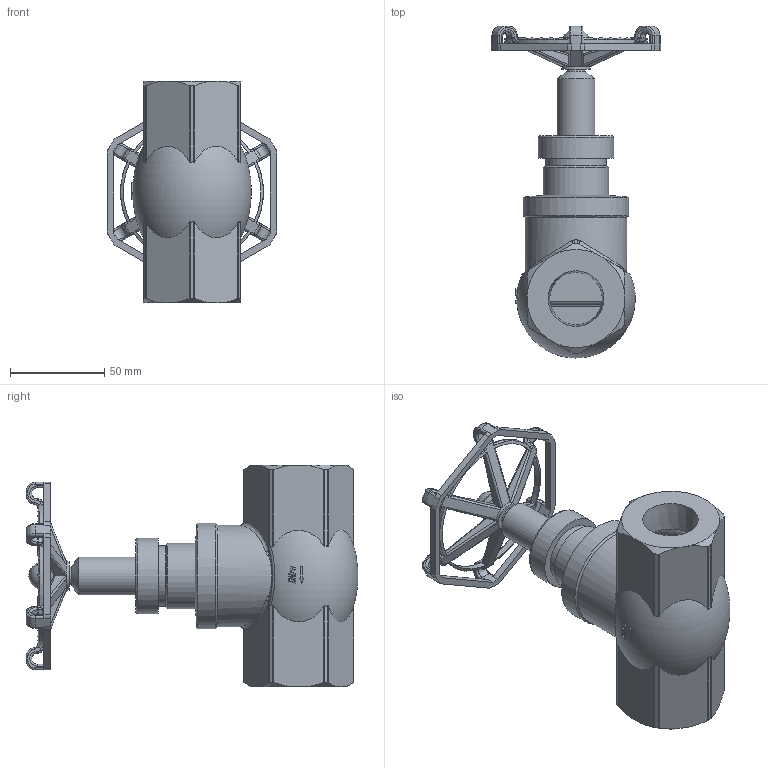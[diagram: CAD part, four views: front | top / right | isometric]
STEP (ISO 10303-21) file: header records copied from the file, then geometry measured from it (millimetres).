
FILE_DESCRIPTION(('STEP AP242'), '1');
FILE_NAME('VSO3131M-1W-T-S 孰囡囗 玎镱痦 DN.ru 捏50 畜16', '', ('UNSPECIFIED'), ('UNSPECIFIED'), 'C3D Converter', 'C3D Toolkit', '');
FILE_SCHEMA(('AP242_MANAGED_MODEL_BASED_3D_ENGINEERING_MIM_LF { 1 0 10303 442 1 1 4 }'));
Length unit declared in the file: millimetre
Products named in the file (1): VSO3131M-1W-T-S
Bounding box: 90.07 x 176.5 x 118 mm (x, y, z)
Volume: 8589.8 mm3; surface area: 83591.3 mm2
Topology: 1 solids, 2 shells, 550 faces, 1515 edges, 960 vertices
Faces by surface type: plane 169, cylinder 136, bspline 114, extrusion 57, torus 42, cone 29, revolution 2, sphere 1
Full cylindrical faces by diameter (mm): 10 x1, 14 x1, 15 x1, 20 x2, 24 x1, 27.871 x2, 28.728 x1, 32 x1, 32.137 x1, 35 x1, 37 x1, 40 x1, 54 x1, 56 x1
Entity records: 42565 total; most frequent: CARTESIAN_POINT 26815, ORIENTED_EDGE 2942, DIRECTION 2063, EDGE_CURVE 1471, VERTEX_POINT 958, AXIS2_PLACEMENT_3D 790, B_SPLINE_CURVE_WITH_KNOTS 690, EDGE_LOOP 615
